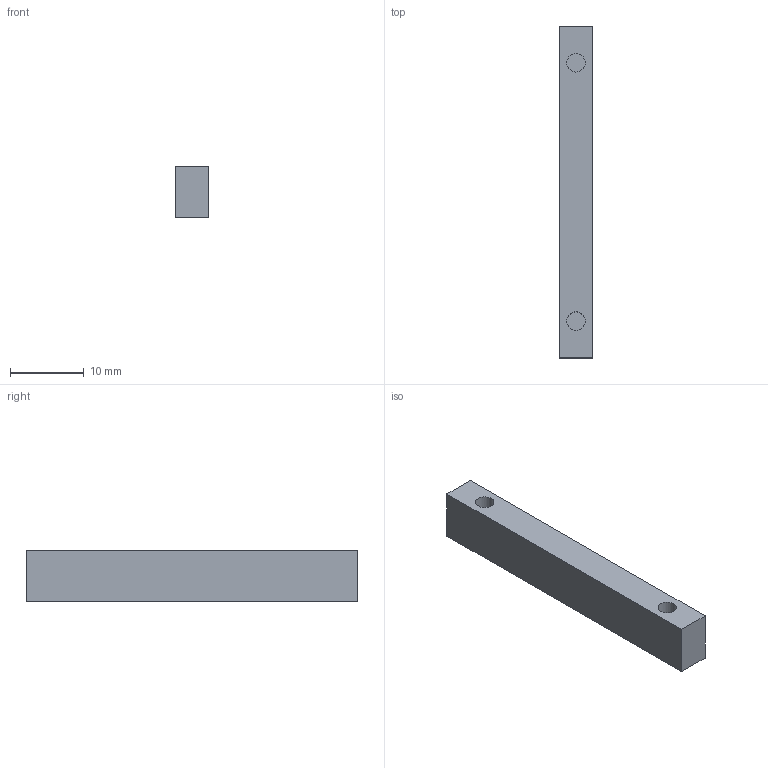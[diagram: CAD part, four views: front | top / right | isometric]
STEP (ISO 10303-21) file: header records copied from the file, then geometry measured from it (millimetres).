
FILE_DESCRIPTION(('FreeCAD Model'),'2;1');
FILE_NAME('E:/CAD Designs/Garmin/Final/CAD files/STEP/pcb_spacer.step', '2021-02-27T13:00:20',('Author'),(''), 'Open CASCADE STEP processor 7.3','FreeCAD','Unknown');
FILE_SCHEMA(('AUTOMOTIVE_DESIGN { 1 0 10303 214 1 1 1 1 }'));
Length unit declared in the file: millimetre
Products named in the file (1): Body
Bounding box: 4.5 x 45 x 7 mm (x, y, z)
Volume: 1368.4 mm3; surface area: 1176.5 mm2
Topology: 1 solids, 1 shells, 10 faces, 18 edges, 12 vertices
Faces by surface type: plane 8, cylinder 2
Full cylindrical faces by diameter (mm): 2.5 x2
Entity records: 501 total; most frequent: DIRECTION 80, CARTESIAN_POINT 77, LINE 46, VECTOR 46, ORIENTED_EDGE 36, PCURVE 36, DEFINITIONAL_REPRESENTATION 36, EDGE_CURVE 18
